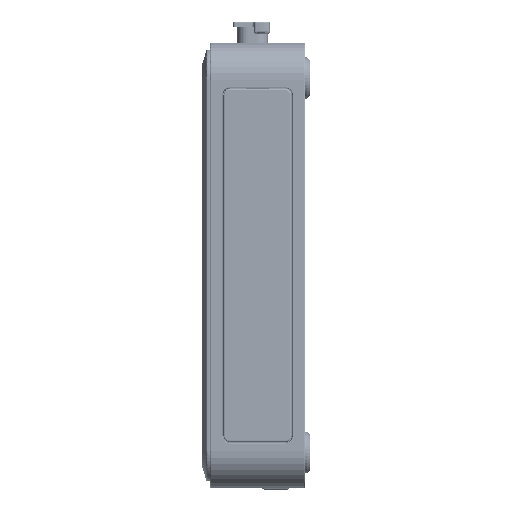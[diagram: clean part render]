
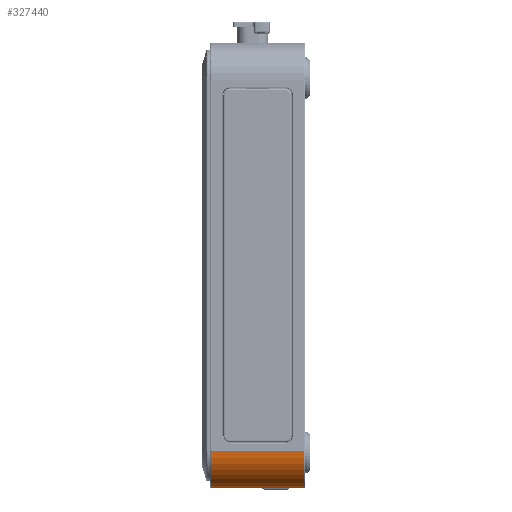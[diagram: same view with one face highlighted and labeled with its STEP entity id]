
A CAD part, left-side view. The second image highlights one B-rep face of the part: STEP entity #327440.
In plain terms, the highlighted cylindrical face has radius 12 mm (diameter 24 mm), a partial arc.
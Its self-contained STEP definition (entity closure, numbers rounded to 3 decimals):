
#8435 = CARTESIAN_POINT ( 'NONE',  ( -88., 1.5, 0. ) ) ;
#13585 = VERTEX_POINT ( 'NONE', #30622 ) ;
#16344 = CARTESIAN_POINT ( 'NONE',  ( -88., 2., 0. ) ) ;
#19535 = VERTEX_POINT ( 'NONE', #175745 ) ;
#30622 = CARTESIAN_POINT ( 'NONE',  ( -100., 2., 12. ) ) ;
#58434 = DIRECTION ( 'NONE',  ( 0., 0., -1. ) ) ;
#63080 = FACE_OUTER_BOUND ( 'NONE', #398662, .T. ) ;
#79353 = EDGE_CURVE ( 'NONE', #19535, #125244, #339939, .T. ) ;
#87072 = DIRECTION ( 'NONE',  ( 0., -1., 0. ) ) ;
#89120 = DIRECTION ( 'NONE',  ( 0.046, 0., -0.999 ) ) ;
#101196 = CYLINDRICAL_SURFACE ( 'NONE', #379841, 12. ) ;
#117590 = ORIENTED_EDGE ( 'NONE', *, *, #127780, .T. ) ;
#121446 = ORIENTED_EDGE ( 'NONE', *, *, #447581, .F. ) ;
#125244 = VERTEX_POINT ( 'NONE', #16344 ) ;
#127780 = EDGE_CURVE ( 'NONE', #125244, #13585, #335952, .T. ) ;
#145876 = VECTOR ( 'NONE', #196108, 1000. ) ;
#150877 = ORIENTED_EDGE ( 'NONE', *, *, #79353, .T. ) ;
#164855 = VERTEX_POINT ( 'NONE', #349838 ) ;
#175745 = CARTESIAN_POINT ( 'NONE',  ( -88., 32., 0. ) ) ;
#180619 = AXIS2_PLACEMENT_3D ( 'NONE', #456235, #382404, #89120 ) ;
#193747 = LINE ( 'NONE', #229536, #145876 ) ;
#196108 = DIRECTION ( 'NONE',  ( 0., 1., 0. ) ) ;
#196917 = VECTOR ( 'NONE', #87072, 1000. ) ;
#229536 = CARTESIAN_POINT ( 'NONE',  ( -100., 79.29, 12. ) ) ;
#242048 = DIRECTION ( 'NONE',  ( 0., -1., 0. ) ) ;
#268053 = EDGE_CURVE ( 'NONE', #13585, #164855, #193747, .T. ) ;
#303390 = DIRECTION ( 'NONE',  ( 0., 1., 0. ) ) ;
#327440 = ADVANCED_FACE ( 'NONE', ( #63080 ), #101196, .T. ) ;
#335952 = CIRCLE ( 'NONE', #366254, 12. ) ;
#339939 = LINE ( 'NONE', #8435, #196917 ) ;
#349838 = CARTESIAN_POINT ( 'NONE',  ( -100., 32., 12. ) ) ;
#366254 = AXIS2_PLACEMENT_3D ( 'NONE', #379660, #303390, #451106 ) ;
#379660 = CARTESIAN_POINT ( 'NONE',  ( -88., 2., 12. ) ) ;
#379841 = AXIS2_PLACEMENT_3D ( 'NONE', #461309, #242048, #58434 ) ;
#382404 = DIRECTION ( 'NONE',  ( 0., 1., 0. ) ) ;
#398662 = EDGE_LOOP ( 'NONE', ( #121446, #150877, #117590, #406094 ) ) ;
#406094 = ORIENTED_EDGE ( 'NONE', *, *, #268053, .T. ) ;
#447581 = EDGE_CURVE ( 'NONE', #19535, #164855, #470269, .T. ) ;
#451106 = DIRECTION ( 'NONE',  ( 0., 0., -1. ) ) ;
#456235 = CARTESIAN_POINT ( 'NONE',  ( -88., 32., 12. ) ) ;
#461309 = CARTESIAN_POINT ( 'NONE',  ( -88., 79.29, 12. ) ) ;
#470269 = CIRCLE ( 'NONE', #180619, 12. ) ;
